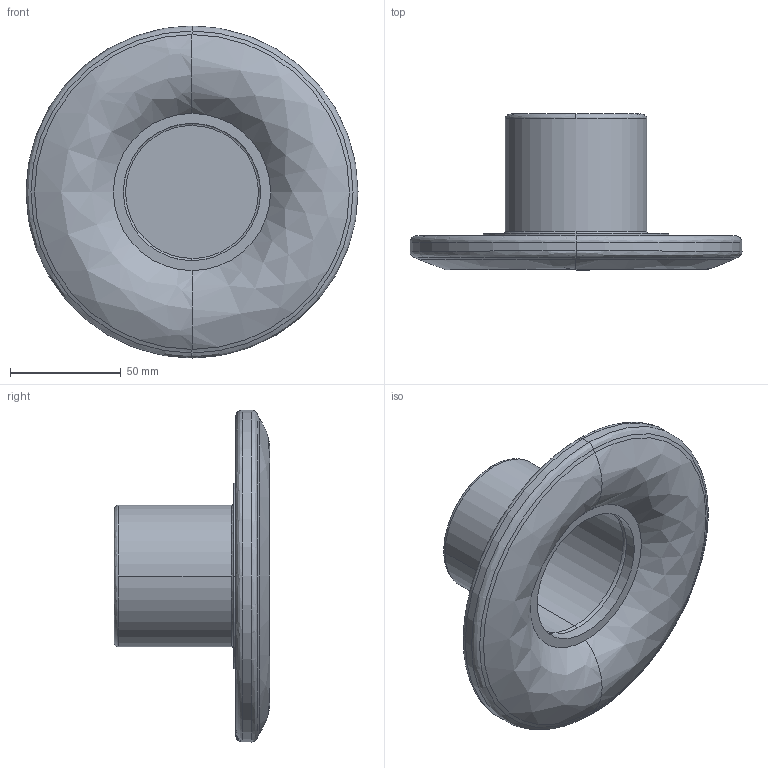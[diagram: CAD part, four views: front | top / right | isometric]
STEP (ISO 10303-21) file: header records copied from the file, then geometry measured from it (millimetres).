
FILE_DESCRIPTION (( 'STEP AP203' ), '1' );
FILE_NAME ('PEGASO_STEP.STEP', '2016-02-11T13:44:44', ( 'admin' ), ( '' ), 'SwSTEP 2.0', 'SolidWorks 2015', '' );
FILE_SCHEMA (( 'CONFIG_CONTROL_DESIGN' ));
Length unit declared in the file: millimetre
Products named in the file (2): PEGASO_STEP
Bounding box: 150 x 70.42 x 150 mm (x, y, z)
Volume: 194808.1 mm3; surface area: 63073.9 mm2
Topology: 1 solids, 1 shells, 32 faces, 66 edges, 40 vertices
Faces by surface type: bspline 16, cylinder 10, plane 6
Entity records: 2243 total; most frequent: CARTESIAN_POINT 1520, ORIENTED_EDGE 132, DIRECTION 106, EDGE_CURVE 66, AXIS2_PLACEMENT_3D 48, VERTEX_POINT 40, EDGE_LOOP 36, ADVANCED_FACE 32
